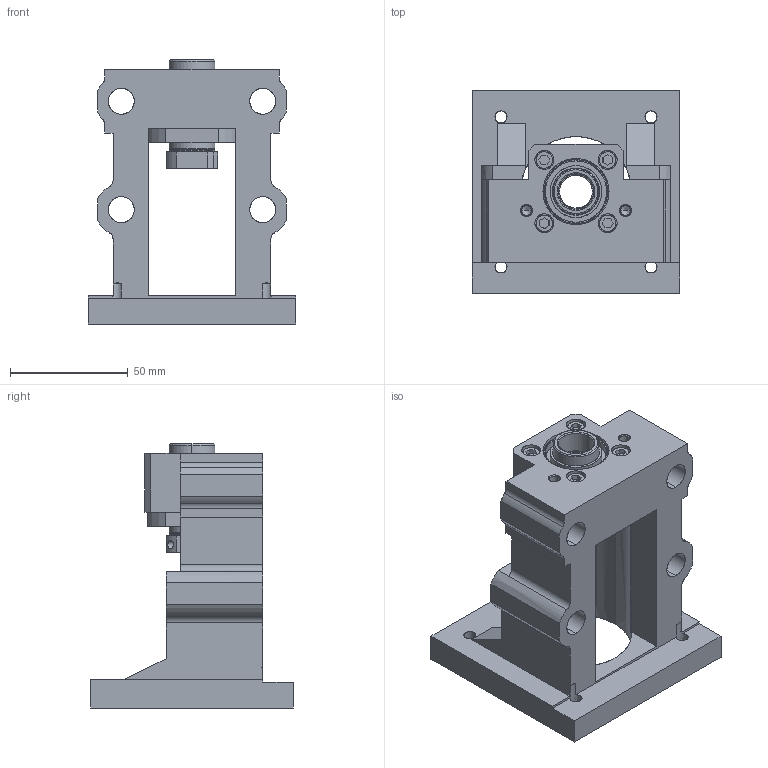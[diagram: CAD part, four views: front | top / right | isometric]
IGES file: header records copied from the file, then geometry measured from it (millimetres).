
Start section: SolidWorks IGES file using analytic representation for surfaces
Global section: file name: C:\Users\117\Desktop\MBCE15-E.IGS; native system: SolidWorks 2018; preprocessor: SolidWorks 2018; author: 117; date: 230112.115634; units: millimetre
Bounding box: 88 x 86 x 112 mm (x, y, z)
Surface area: 78333.6 mm2 (no closed solid volume)
Topology: 0 solids, 0 shells, 564 faces, 10314 edges, 10238 vertices
Faces by surface type: revolution 323, bspline 241
